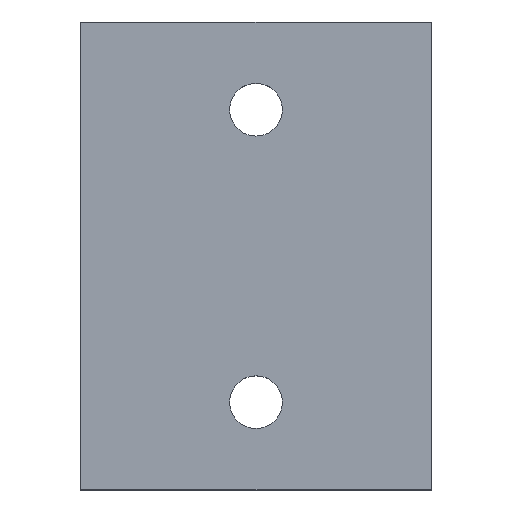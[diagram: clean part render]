
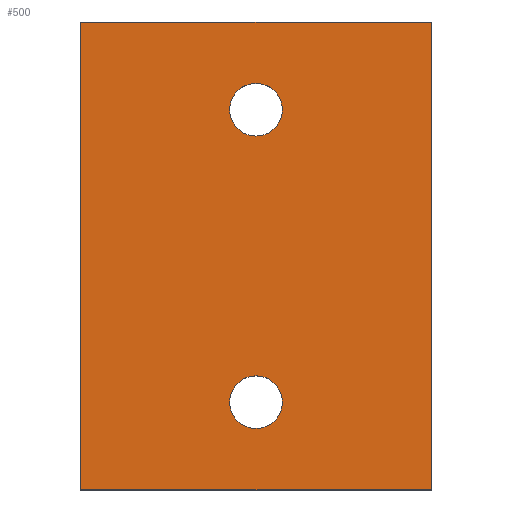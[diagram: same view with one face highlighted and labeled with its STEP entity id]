
A CAD part, top view. The second image highlights one B-rep face of the part: STEP entity #500.
In plain terms, the highlighted planar face has unit normal (0, 0, 1).
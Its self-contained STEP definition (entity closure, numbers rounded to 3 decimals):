
#24 = VERTEX_POINT('',#25);
#25 = CARTESIAN_POINT('',(-30.,-40.,6.));
#32 = PLANE('',#33);
#33 = AXIS2_PLACEMENT_3D('',#34,#35,#36);
#34 = CARTESIAN_POINT('',(-30.,-40.,0.));
#35 = DIRECTION('',(0.,1.,0.));
#36 = DIRECTION('',(1.,0.,0.));
#44 = PLANE('',#45);
#45 = AXIS2_PLACEMENT_3D('',#46,#47,#48);
#46 = CARTESIAN_POINT('',(-30.,40.,0.));
#47 = DIRECTION('',(1.,0.,-0.));
#48 = DIRECTION('',(0.,-1.,0.));
#56 = EDGE_CURVE('',#24,#57,#59,.T.);
#57 = VERTEX_POINT('',#58);
#58 = CARTESIAN_POINT('',(30.,-40.,6.));
#59 = SURFACE_CURVE('',#60,(#64,#71),.PCURVE_S1.);
#60 = LINE('',#61,#62);
#61 = CARTESIAN_POINT('',(-30.,-40.,6.));
#62 = VECTOR('',#63,1.);
#63 = DIRECTION('',(1.,0.,0.));
#64 = PCURVE('',#32,#65);
#65 = DEFINITIONAL_REPRESENTATION('',(#66),#70);
#66 = LINE('',#67,#68);
#67 = CARTESIAN_POINT('',(0.,-6.));
#68 = VECTOR('',#69,1.);
#69 = DIRECTION('',(1.,0.));
#70 = ( GEOMETRIC_REPRESENTATION_CONTEXT(2) 
PARAMETRIC_REPRESENTATION_CONTEXT() REPRESENTATION_CONTEXT('2D SPACE',''
  ) );
#71 = PCURVE('',#72,#77);
#72 = PLANE('',#73);
#73 = AXIS2_PLACEMENT_3D('',#74,#75,#76);
#74 = CARTESIAN_POINT('',(0.,0.,6.));
#75 = DIRECTION('',(0.,0.,1.));
#76 = DIRECTION('',(1.,0.,-0.));
#77 = DEFINITIONAL_REPRESENTATION('',(#78),#82);
#78 = LINE('',#79,#80);
#79 = CARTESIAN_POINT('',(-30.,-40.));
#80 = VECTOR('',#81,1.);
#81 = DIRECTION('',(1.,0.));
#82 = ( GEOMETRIC_REPRESENTATION_CONTEXT(2) 
PARAMETRIC_REPRESENTATION_CONTEXT() REPRESENTATION_CONTEXT('2D SPACE',''
  ) );
#100 = PLANE('',#101);
#101 = AXIS2_PLACEMENT_3D('',#102,#103,#104);
#102 = CARTESIAN_POINT('',(30.,-40.,0.));
#103 = DIRECTION('',(-1.,0.,0.));
#104 = DIRECTION('',(0.,1.,0.));
#142 = EDGE_CURVE('',#57,#143,#145,.T.);
#143 = VERTEX_POINT('',#144);
#144 = CARTESIAN_POINT('',(30.,40.,6.));
#145 = SURFACE_CURVE('',#146,(#150,#157),.PCURVE_S1.);
#146 = LINE('',#147,#148);
#147 = CARTESIAN_POINT('',(30.,-40.,6.));
#148 = VECTOR('',#149,1.);
#149 = DIRECTION('',(0.,1.,0.));
#150 = PCURVE('',#100,#151);
#151 = DEFINITIONAL_REPRESENTATION('',(#152),#156);
#152 = LINE('',#153,#154);
#153 = CARTESIAN_POINT('',(0.,-6.));
#154 = VECTOR('',#155,1.);
#155 = DIRECTION('',(1.,0.));
#156 = ( GEOMETRIC_REPRESENTATION_CONTEXT(2) 
PARAMETRIC_REPRESENTATION_CONTEXT() REPRESENTATION_CONTEXT('2D SPACE',''
  ) );
#157 = PCURVE('',#72,#158);
#158 = DEFINITIONAL_REPRESENTATION('',(#159),#163);
#159 = LINE('',#160,#161);
#160 = CARTESIAN_POINT('',(30.,-40.));
#161 = VECTOR('',#162,1.);
#162 = DIRECTION('',(0.,1.));
#163 = ( GEOMETRIC_REPRESENTATION_CONTEXT(2) 
PARAMETRIC_REPRESENTATION_CONTEXT() REPRESENTATION_CONTEXT('2D SPACE',''
  ) );
#181 = PLANE('',#182);
#182 = AXIS2_PLACEMENT_3D('',#183,#184,#185);
#183 = CARTESIAN_POINT('',(30.,40.,0.));
#184 = DIRECTION('',(0.,-1.,0.));
#185 = DIRECTION('',(-1.,0.,0.));
#218 = EDGE_CURVE('',#143,#219,#221,.T.);
#219 = VERTEX_POINT('',#220);
#220 = CARTESIAN_POINT('',(-30.,40.,6.));
#221 = SURFACE_CURVE('',#222,(#226,#233),.PCURVE_S1.);
#222 = LINE('',#223,#224);
#223 = CARTESIAN_POINT('',(30.,40.,6.));
#224 = VECTOR('',#225,1.);
#225 = DIRECTION('',(-1.,0.,0.));
#226 = PCURVE('',#181,#227);
#227 = DEFINITIONAL_REPRESENTATION('',(#228),#232);
#228 = LINE('',#229,#230);
#229 = CARTESIAN_POINT('',(0.,-6.));
#230 = VECTOR('',#231,1.);
#231 = DIRECTION('',(1.,0.));
#232 = ( GEOMETRIC_REPRESENTATION_CONTEXT(2) 
PARAMETRIC_REPRESENTATION_CONTEXT() REPRESENTATION_CONTEXT('2D SPACE',''
  ) );
#233 = PCURVE('',#72,#234);
#234 = DEFINITIONAL_REPRESENTATION('',(#235),#239);
#235 = LINE('',#236,#237);
#236 = CARTESIAN_POINT('',(30.,40.));
#237 = VECTOR('',#238,1.);
#238 = DIRECTION('',(-1.,0.));
#239 = ( GEOMETRIC_REPRESENTATION_CONTEXT(2) 
PARAMETRIC_REPRESENTATION_CONTEXT() REPRESENTATION_CONTEXT('2D SPACE',''
  ) );
#289 = EDGE_CURVE('',#219,#24,#290,.T.);
#290 = SURFACE_CURVE('',#291,(#295,#302),.PCURVE_S1.);
#291 = LINE('',#292,#293);
#292 = CARTESIAN_POINT('',(-30.,40.,6.));
#293 = VECTOR('',#294,1.);
#294 = DIRECTION('',(0.,-1.,0.));
#295 = PCURVE('',#44,#296);
#296 = DEFINITIONAL_REPRESENTATION('',(#297),#301);
#297 = LINE('',#298,#299);
#298 = CARTESIAN_POINT('',(0.,-6.));
#299 = VECTOR('',#300,1.);
#300 = DIRECTION('',(1.,0.));
#301 = ( GEOMETRIC_REPRESENTATION_CONTEXT(2) 
PARAMETRIC_REPRESENTATION_CONTEXT() REPRESENTATION_CONTEXT('2D SPACE',''
  ) );
#302 = PCURVE('',#72,#303);
#303 = DEFINITIONAL_REPRESENTATION('',(#304),#308);
#304 = LINE('',#305,#306);
#305 = CARTESIAN_POINT('',(-30.,40.));
#306 = VECTOR('',#307,1.);
#307 = DIRECTION('',(0.,-1.));
#308 = ( GEOMETRIC_REPRESENTATION_CONTEXT(2) 
PARAMETRIC_REPRESENTATION_CONTEXT() REPRESENTATION_CONTEXT('2D SPACE',''
  ) );
#338 = VERTEX_POINT('',#339);
#339 = CARTESIAN_POINT('',(4.5,-25.,6.));
#346 = CYLINDRICAL_SURFACE('',#347,4.5);
#347 = AXIS2_PLACEMENT_3D('',#348,#349,#350);
#348 = CARTESIAN_POINT('',(0.,-25.,0.));
#349 = DIRECTION('',(-0.,-0.,-1.));
#350 = DIRECTION('',(1.,0.,-0.));
#365 = EDGE_CURVE('',#338,#338,#366,.T.);
#366 = SURFACE_CURVE('',#367,(#372,#379),.PCURVE_S1.);
#367 = CIRCLE('',#368,4.5);
#368 = AXIS2_PLACEMENT_3D('',#369,#370,#371);
#369 = CARTESIAN_POINT('',(0.,-25.,6.));
#370 = DIRECTION('',(0.,0.,1.));
#371 = DIRECTION('',(1.,0.,-0.));
#372 = PCURVE('',#346,#373);
#373 = DEFINITIONAL_REPRESENTATION('',(#374),#378);
#374 = LINE('',#375,#376);
#375 = CARTESIAN_POINT('',(-0.,-6.));
#376 = VECTOR('',#377,1.);
#377 = DIRECTION('',(-1.,0.));
#378 = ( GEOMETRIC_REPRESENTATION_CONTEXT(2) 
PARAMETRIC_REPRESENTATION_CONTEXT() REPRESENTATION_CONTEXT('2D SPACE',''
  ) );
#379 = PCURVE('',#72,#380);
#380 = DEFINITIONAL_REPRESENTATION('',(#381),#385);
#381 = CIRCLE('',#382,4.5);
#382 = AXIS2_PLACEMENT_2D('',#383,#384);
#383 = CARTESIAN_POINT('',(0.,-25.));
#384 = DIRECTION('',(1.,0.));
#385 = ( GEOMETRIC_REPRESENTATION_CONTEXT(2) 
PARAMETRIC_REPRESENTATION_CONTEXT() REPRESENTATION_CONTEXT('2D SPACE',''
  ) );
#416 = VERTEX_POINT('',#417);
#417 = CARTESIAN_POINT('',(4.5,25.,6.));
#424 = CYLINDRICAL_SURFACE('',#425,4.5);
#425 = AXIS2_PLACEMENT_3D('',#426,#427,#428);
#426 = CARTESIAN_POINT('',(0.,25.,0.));
#427 = DIRECTION('',(-0.,-0.,-1.));
#428 = DIRECTION('',(1.,0.,-0.));
#443 = EDGE_CURVE('',#416,#416,#444,.T.);
#444 = SURFACE_CURVE('',#445,(#450,#457),.PCURVE_S1.);
#445 = CIRCLE('',#446,4.5);
#446 = AXIS2_PLACEMENT_3D('',#447,#448,#449);
#447 = CARTESIAN_POINT('',(0.,25.,6.));
#448 = DIRECTION('',(0.,0.,1.));
#449 = DIRECTION('',(1.,0.,-0.));
#450 = PCURVE('',#424,#451);
#451 = DEFINITIONAL_REPRESENTATION('',(#452),#456);
#452 = LINE('',#453,#454);
#453 = CARTESIAN_POINT('',(-0.,-6.));
#454 = VECTOR('',#455,1.);
#455 = DIRECTION('',(-1.,0.));
#456 = ( GEOMETRIC_REPRESENTATION_CONTEXT(2) 
PARAMETRIC_REPRESENTATION_CONTEXT() REPRESENTATION_CONTEXT('2D SPACE',''
  ) );
#457 = PCURVE('',#72,#458);
#458 = DEFINITIONAL_REPRESENTATION('',(#459),#463);
#459 = CIRCLE('',#460,4.5);
#460 = AXIS2_PLACEMENT_2D('',#461,#462);
#461 = CARTESIAN_POINT('',(0.,25.));
#462 = DIRECTION('',(1.,0.));
#463 = ( GEOMETRIC_REPRESENTATION_CONTEXT(2) 
PARAMETRIC_REPRESENTATION_CONTEXT() REPRESENTATION_CONTEXT('2D SPACE',''
  ) );
#500 = ADVANCED_FACE('',(#501,#507,#510),#72,.T.);
#501 = FACE_BOUND('',#502,.T.);
#502 = EDGE_LOOP('',(#503,#504,#505,#506));
#503 = ORIENTED_EDGE('',*,*,#56,.T.);
#504 = ORIENTED_EDGE('',*,*,#142,.T.);
#505 = ORIENTED_EDGE('',*,*,#218,.T.);
#506 = ORIENTED_EDGE('',*,*,#289,.T.);
#507 = FACE_BOUND('',#508,.F.);
#508 = EDGE_LOOP('',(#509));
#509 = ORIENTED_EDGE('',*,*,#365,.T.);
#510 = FACE_BOUND('',#511,.F.);
#511 = EDGE_LOOP('',(#512));
#512 = ORIENTED_EDGE('',*,*,#443,.T.);
